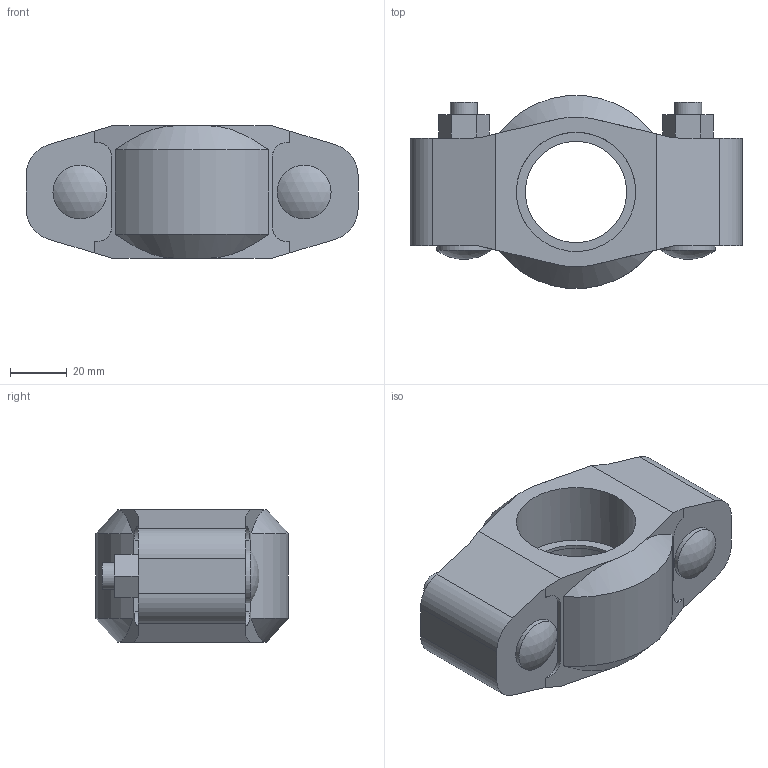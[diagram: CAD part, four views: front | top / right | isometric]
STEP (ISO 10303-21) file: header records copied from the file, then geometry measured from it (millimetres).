
FILE_DESCRIPTION(/* description */ ('VIC COUPLING STYLE 07 RIGID','CAx-IF Rec.Pracs.---Representation and Presentation of Product Manufacturing Information (PMI)---4.0---2014-10-13'),/* implementation_level */ '2;1');
FILE_NAME(/* name */ 'C:\Users\kkamble\Desktop\KIRAN\2022\Updated Couplings\007\Victaulic_IPS_Coupling Rigid_Style 07 (OGS)\Victaulic_IPS_Coupling Rigid_Style 07 (OGS)_1.25 (32).stp',/* time_stamp */ '2022-03-25T09:56:01+05:00',/* author */ ('jheald'),/* organization */ ('Victaulic'),/* preprocessor_version */ 'ST-DEVELOPER v17.2',/* originating_system */ 'Autodesk Inventor 2019',/* authorisation */ '');
FILE_SCHEMA (('AP242_MANAGED_MODEL_BASED_3D_ENGINEERING_MIM_LF { 1 0 10303 442 1 1 4 }'));
Length unit declared in the file: inch
Products named in the file (1): 07-01.25
Bounding box: 117.35 x 68.09 x 46.74 mm (x, y, z)
Volume: 171637.7 mm3; surface area: 34764.7 mm2
Topology: 1 solids, 3 shells, 87 faces, 239 edges, 162 vertices
Faces by surface type: plane 54, cylinder 27, cone 4, sphere 2
Full cylindrical faces by diameter (mm): 9.525 x4, 19.05 x2, 35.814 x1, 42.164 x2
Entity records: 3036 total; most frequent: CARTESIAN_POINT 522, DIRECTION 507, ORIENTED_EDGE 478, EDGE_CURVE 239, AXIS2_PLACEMENT_3D 175, VERTEX_POINT 162, LINE 157, VECTOR 157
